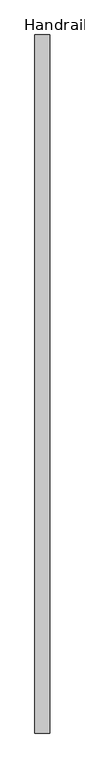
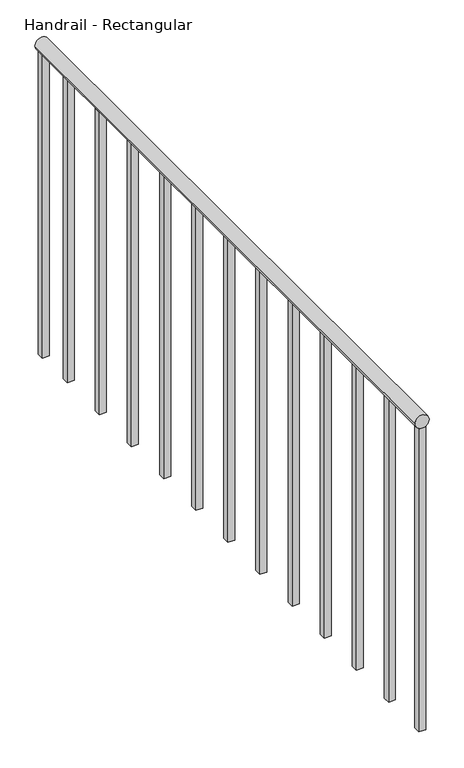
"""IFC4 building model written with IfcOpenShell, lengths in millimetres: railing geometry, Handrail - Rectangular."""

from ifc_helpers import new_model, si_unit, point, frame, frame_2d, origin, place, context, project, spatial, polyline, circle_curve, trimmed, segment, composite_curve, outline, extrude, source, transform, mapped, element, save


def handrail_rectangular_74a4d960(model_context):
    return source(origin(), model_context, "Body", "SweptSolid", [
        extrude(outline(composite_curve([segment(trimmed(circle_curve(frame_2d((10039.35, 2297.1410437)), 19.05), [point((10039.35, 2316.1910437))], [point((10039.35, 2278.0910437))], False, "CARTESIAN"), True, "CONTINUOUS"), segment(trimmed(circle_curve(frame_2d((10039.35, 2297.1410437)), 19.05), [point((10039.35, 2278.0910437))], [point((10039.35, 2316.1910437))], False, "CARTESIAN"), True, "CONTINUOUS")], self_intersect=False)), frame((0.0, -33825.9683133, 0.0), z_axis=(0.0, 1.0, 0.0), x_axis=(0.0, 0.0, 1.0)), (0.0, 0.0, 1.0), 1803.4),
        extrude(outline(polyline([(2287.6160437, -32159.0933133), (2287.6160437, -32140.0433133), (2306.6660437, -32140.0433133), (2306.6660437, -32159.0933133), (2287.6160437, -32159.0933133)])), frame((0.0, 0.0, 9144.0), z_axis=(0.0, 0.0, 1.0), x_axis=(1.0, 0.0, 0.0)), (0.0, 0.0, 1.0), 876.3),
        extrude(outline(polyline([(2287.6160437, -32311.4933133), (2287.6160437, -32292.4433133), (2306.6660437, -32292.4433133), (2306.6660437, -32311.4933133), (2287.6160437, -32311.4933133)])), frame((0.0, 0.0, 9144.0), z_axis=(0.0, 0.0, 1.0), x_axis=(1.0, 0.0, 0.0)), (0.0, 0.0, 1.0), 876.3),
        extrude(outline(polyline([(2287.6160437, -32463.8933133), (2287.6160437, -32444.8433133), (2306.6660437, -32444.8433133), (2306.6660437, -32463.8933133), (2287.6160437, -32463.8933133)])), frame((0.0, 0.0, 9144.0), z_axis=(0.0, 0.0, 1.0), x_axis=(1.0, 0.0, 0.0)), (0.0, 0.0, 1.0), 876.3),
        extrude(outline(polyline([(2287.6160437, -32616.2933133), (2287.6160437, -32597.2433133), (2306.6660437, -32597.2433133), (2306.6660437, -32616.2933133), (2287.6160437, -32616.2933133)])), frame((0.0, 0.0, 9144.0), z_axis=(0.0, 0.0, 1.0), x_axis=(1.0, 0.0, 0.0)), (0.0, 0.0, 1.0), 876.3),
        extrude(outline(polyline([(2287.6160437, -32768.6933133), (2287.6160437, -32749.6433133), (2306.6660437, -32749.6433133), (2306.6660437, -32768.6933133), (2287.6160437, -32768.6933133)])), frame((0.0, 0.0, 9144.0), z_axis=(0.0, 0.0, 1.0), x_axis=(1.0, 0.0, 0.0)), (0.0, 0.0, 1.0), 876.3),
        extrude(outline(polyline([(2287.6160437, -32921.0933133), (2287.6160437, -32902.0433133), (2306.6660437, -32902.0433133), (2306.6660437, -32921.0933133), (2287.6160437, -32921.0933133)])), frame((0.0, 0.0, 9144.0), z_axis=(0.0, 0.0, 1.0), x_axis=(1.0, 0.0, 0.0)), (0.0, 0.0, 1.0), 876.3),
        extrude(outline(polyline([(2287.6160437, -33073.4933133), (2287.6160437, -33054.4433133), (2306.6660437, -33054.4433133), (2306.6660437, -33073.4933133), (2287.6160437, -33073.4933133)])), frame((0.0, 0.0, 9144.0), z_axis=(0.0, 0.0, 1.0), x_axis=(1.0, 0.0, 0.0)), (0.0, 0.0, 1.0), 876.3),
        extrude(outline(polyline([(2287.6160437, -33225.8933133), (2287.6160437, -33206.8433133), (2306.6660437, -33206.8433133), (2306.6660437, -33225.8933133), (2287.6160437, -33225.8933133)])), frame((0.0, 0.0, 9144.0), z_axis=(0.0, 0.0, 1.0), x_axis=(1.0, 0.0, 0.0)), (0.0, 0.0, 1.0), 876.3),
        extrude(outline(polyline([(2287.6160437, -33378.2933133), (2287.6160437, -33359.2433133), (2306.6660437, -33359.2433133), (2306.6660437, -33378.2933133), (2287.6160437, -33378.2933133)])), frame((0.0, 0.0, 9144.0), z_axis=(0.0, 0.0, 1.0), x_axis=(1.0, 0.0, 0.0)), (0.0, 0.0, 1.0), 876.3),
        extrude(outline(polyline([(2287.6160437, -33530.6933133), (2287.6160437, -33511.6433133), (2306.6660437, -33511.6433133), (2306.6660437, -33530.6933133), (2287.6160437, -33530.6933133)])), frame((0.0, 0.0, 9144.0), z_axis=(0.0, 0.0, 1.0), x_axis=(1.0, 0.0, 0.0)), (0.0, 0.0, 1.0), 876.3),
        extrude(outline(polyline([(2287.6160437, -33683.0933133), (2287.6160437, -33664.0433133), (2306.6660437, -33664.0433133), (2306.6660437, -33683.0933133), (2287.6160437, -33683.0933133)])), frame((0.0, 0.0, 9144.0), z_axis=(0.0, 0.0, 1.0), x_axis=(1.0, 0.0, 0.0)), (0.0, 0.0, 1.0), 876.3),
        extrude(outline(polyline([(2287.6160437, -32041.6183133), (2287.6160437, -32022.5683133), (2306.6660437, -32022.5683133), (2306.6660437, -32041.6183133), (2287.6160437, -32041.6183133)])), frame((0.0, 0.0, 9144.0), z_axis=(0.0, 0.0, 1.0), x_axis=(1.0, 0.0, 0.0)), (0.0, 0.0, 1.0), 876.3),
        extrude(outline(polyline([(2287.6160437, -33825.9683133), (2287.6160437, -33806.9183133), (2306.6660437, -33806.9183133), (2306.6660437, -33825.9683133), (2287.6160437, -33825.9683133)])), frame((0.0, 0.0, 9144.0), z_axis=(0.0, 0.0, 1.0), x_axis=(1.0, 0.0, 0.0)), (0.0, 0.0, 1.0), 876.3),
    ])


if __name__ == "__main__":
    model = new_model("IFC4")
    model_context = context("Model", 3, world=origin())
    ifc_project = project(units=[si_unit("LENGTHUNIT", "METRE", prefix="MILLI")], contexts=[model_context])
    site = spatial("IfcSite", under=ifc_project)
    building = spatial("IfcBuilding", under=site)
    placement = place(None, origin())
    handrail_rectangular_shape = handrail_rectangular_74a4d960(model_context)
    element("IfcRailing", 1, ObjectType="Handrail - Rectangular", at=placement, inside=building, context=model_context, shape_type="MappedRepresentation", body=[
        mapped(handrail_rectangular_shape, transform((0.0, 0.0, 0.0), x_axis=(1.0, 0.0, 0.0), y_axis=(0.0, 1.0, 0.0), z_axis=(0.0, 0.0, 1.0))),
    ])
    save(model, "model.ifc")
